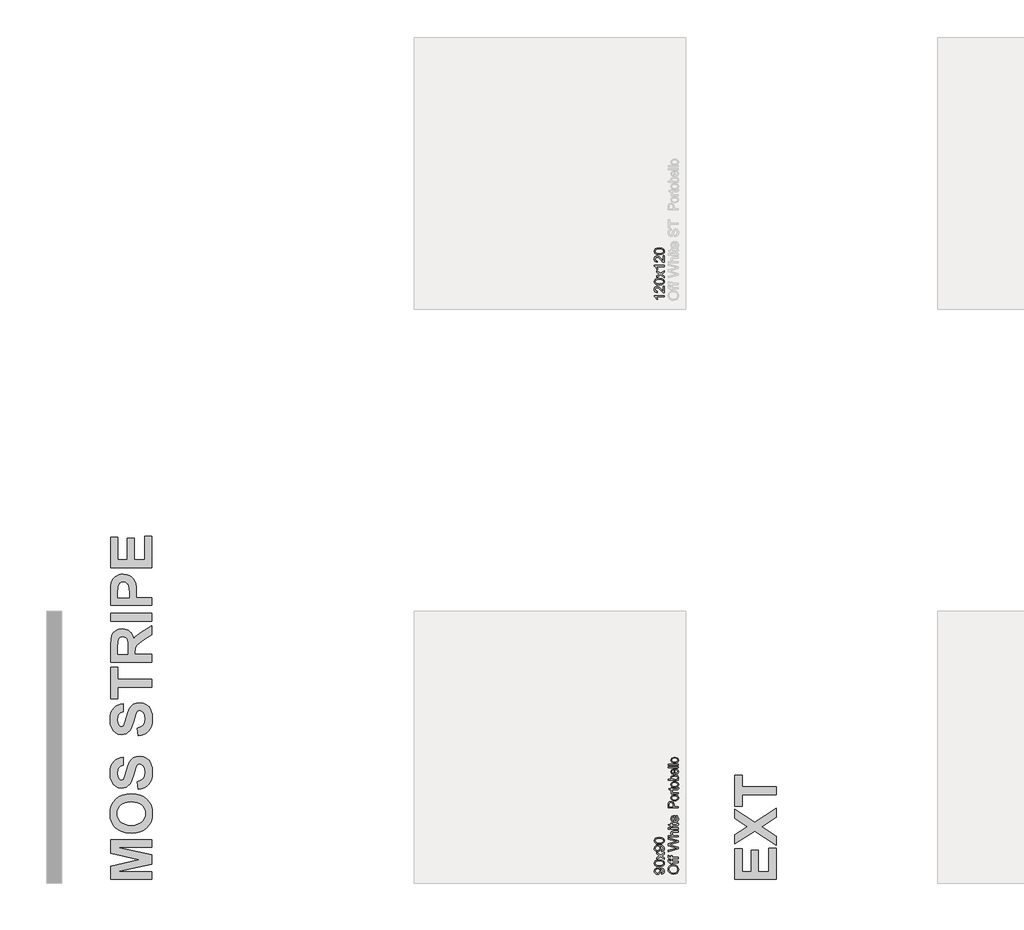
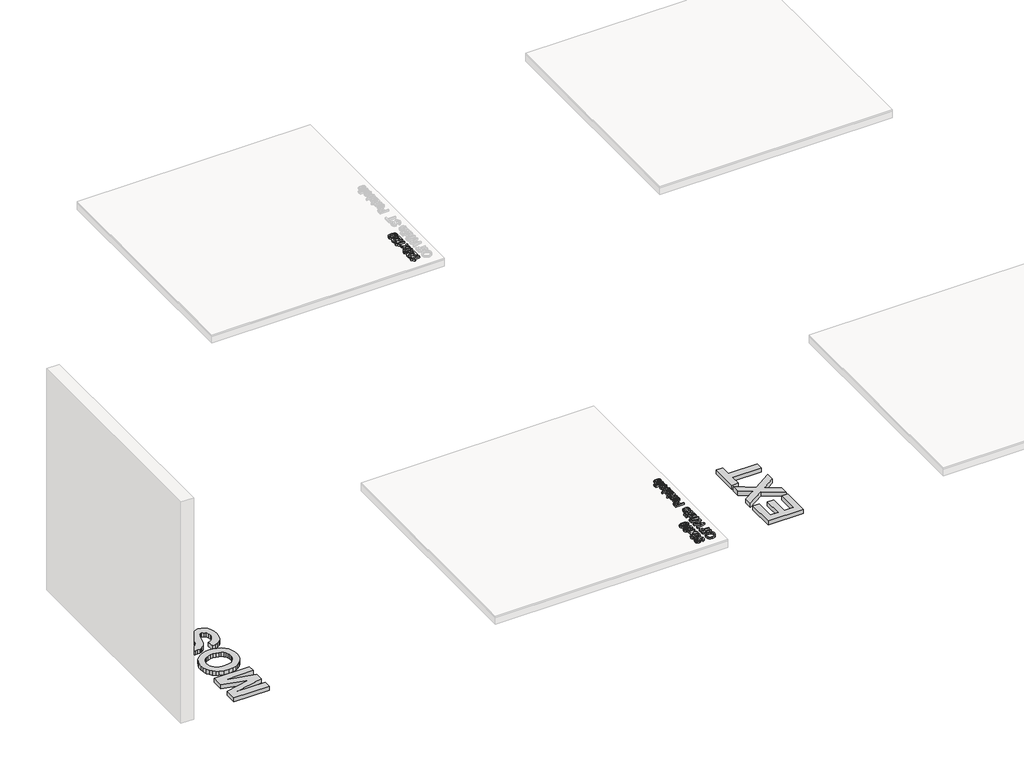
# One storey, part 5 of 19: 6 proxies.
"""IFC4 building model written with IfcOpenShell, lengths in millimetres."""

from ifc_helpers import new_model, si_unit, frame, origin, origin_with_axes, place, context, project, spatial, polyline, outline, extrude, element, save

model = new_model("IFC4")

# Units and contexts
model_context = context("Model", 3, world=origin())
ifc_project = project(units=[si_unit("LENGTHUNIT", "METRE", prefix="MILLI")], contexts=[model_context])

# Site, building, storey
site = spatial("IfcSite", under=ifc_project)
building = spatial("IfcBuilding", under=site)
storey = spatial("IfcBuildingStorey", under=building, Name="PORTOBELLO - SHOWROOM", Elevation=0.0)

# Proxies
placement = place(None, origin())
element("IfcBuildingElementProxy", 1, Name="10mm Arial", ObjectType="10mm Arial", at=placement, inside=storey, context=model_context, shape_type="SweptSolid", body=[
    extrude(outline(polyline([(6282.3367439, -7006.5341901), (6260.1228028, -7003.186464), (6243.316727, -6993.1432855), (6232.7401196, -6977.8087377), (6229.2145838, -6958.5869034), (6230.8700528, -6945.4105966), (6235.8364597, -6933.5954532), (6243.7643167, -6923.7852667), (6254.3041359, -6916.6238305), (6266.9470138, -6912.2460348), (6281.184047, -6910.7867695), (6295.6111526, -6912.3226769), (6308.4318401, -6916.9303988), (6318.9900534, -6924.3554838), (6326.6297361, -6934.34348), (6331.2650493, -6946.0574558), (6332.8101537, -6958.6604798), (6331.1025681, -6972.0391217), (6325.9798113, -6983.9217102), (6317.9048015, -6993.7073712), (6307.3404569, -7000.795231), (6282.3367439, -7006.5341901)]), holes=[polyline([(6282.4593712, -6993.9771514), (6298.1740638, -6991.4663568), (6310.1486227, -6983.9339729), (6317.7269918, -6972.6124045), (6320.2531149, -6958.7340562), (6317.7024664, -6944.6533729), (6310.0505209, -6933.3134104), (6297.7080799, -6925.8362088), (6281.0859451, -6923.3438083), (6260.3619261, -6927.6112394), (6246.6399276, -6940.0824391), (6241.7716226, -6958.513327), (6244.1168703, -6972.0207276), (6251.1526135, -6983.5047772), (6263.6697983, -6991.3590578), (6282.4593712, -6993.9771514)])]), frame((0.0, 0.0, 18.0), z_axis=(0.0, 0.0, 1.0), x_axis=(1.0, 0.0, 0.0)), (0.0, 0.0, 1.0), 20.0),
    extrude(outline(polyline([(6331.2405238, -6851.1408354), (6270.0249598, -6851.1408354), (6270.0249598, -6862.1282443), (6257.467921, -6862.1282443), (6257.467921, -6851.1408354), (6250.0367047, -6851.1408354), (6239.5643306, -6849.8164602), (6232.0840634, -6843.390788), (6229.2145838, -6830.7356474), (6230.5880099, -6819.2822546), (6242.3602338, -6821.1216646), (6241.7716226, -6828.3566771), (6243.8562872, -6836.26614), (6251.63086, -6838.5837966), (6257.467921, -6838.5837966), (6257.467921, -6824.457128), (6270.0249598, -6824.457128), (6270.0249598, -6838.5837966), (6331.2405238, -6838.5837966), (6331.2405238, -6851.1408354)])), frame((0.0, 0.0, 18.0), z_axis=(0.0, 0.0, 1.0), x_axis=(1.0, 0.0, 0.0)), (0.0, 0.0, 1.0), 20.0),
    extrude(outline(polyline([(6331.2405238, -6891.9512114), (6270.0249598, -6891.9512114), (6270.0249598, -6902.9386203), (6257.467921, -6902.9386203), (6257.467921, -6891.9512114), (6250.0367047, -6891.9512114), (6239.5643306, -6890.6268362), (6232.0840634, -6884.201164), (6229.2145838, -6871.5460234), (6230.5880099, -6860.0926306), (6242.3602338, -6861.9320406), (6241.7716226, -6869.1670531), (6243.8562872, -6877.076516), (6251.63086, -6879.3941726), (6257.467921, -6879.3941726), (6257.467921, -6865.267504), (6270.0249598, -6865.267504), (6270.0249598, -6879.3941726), (6331.2405238, -6879.3941726), (6331.2405238, -6891.9512114)])), frame((0.0, 0.0, 18.0), z_axis=(0.0, 0.0, 1.0), x_axis=(1.0, 0.0, 0.0)), (0.0, 0.0, 1.0), 20.0),
    extrude(outline(polyline([(6331.2405238, -6754.6821762), (6230.7842137, -6782.0771221), (6230.7842137, -6769.1276759), (6296.8067691, -6753.2351737), (6317.1874316, -6748.3300805), (6299.1612138, -6743.0816307), (6230.7842137, -6723.166952), (6230.7842137, -6704.5030721), (6280.3501811, -6690.033047), (6317.1874316, -6679.2663672), (6297.3953802, -6674.5084268), (6230.7842137, -6658.4932972), (6230.7842137, -6645.5193255), (6331.2405238, -6672.889746), (6331.2405238, -6686.3297015), (6253.7400502, -6710.438235), (6242.9243195, -6713.7982238), (6255.9473421, -6717.5751457), (6331.2405238, -6739.525438), (6331.2405238, -6754.6821762)])), frame((0.0, 0.0, 18.0), z_axis=(0.0, 0.0, 1.0), x_axis=(1.0, 0.0, 0.0)), (0.0, 0.0, 1.0), 20.0),
    extrude(outline(polyline([(6331.2405238, -6634.5319166), (6230.7842137, -6634.5319166), (6230.7842137, -6621.9748778), (6267.719566, -6621.9748778), (6258.8536099, -6612.1830854), (6255.8982912, -6600.1226873), (6259.12339, -6586.0205442), (6268.038397, -6577.4611564), (6284.5440359, -6574.8859825), (6331.2405238, -6574.8859825), (6331.2405238, -6587.4430212), (6285.8438856, -6587.4430212), (6272.6001338, -6591.4406722), (6268.45533, -6602.7714377), (6271.2512331, -6613.0598708), (6278.8296022, -6619.9270014), (6292.0488286, -6621.9748778), (6331.2405238, -6621.9748778), (6331.2405238, -6634.5319166)])), frame((0.0, 0.0, 18.0), z_axis=(0.0, 0.0, 1.0), x_axis=(1.0, 0.0, 0.0)), (0.0, 0.0, 1.0), 20.0),
    extrude(outline(polyline([(6243.3412524, -6557.6200542), (6230.7842137, -6557.6200542), (6230.7842137, -6545.0630154), (6243.3412524, -6545.0630154), (6243.3412524, -6557.6200542)])), frame((0.0, 0.0, 18.0), z_axis=(0.0, 0.0, 1.0), x_axis=(1.0, 0.0, 0.0)), (0.0, 0.0, 1.0), 20.0),
    extrude(outline(polyline([(6331.2405238, -6557.6200542), (6257.467921, -6557.6200542), (6257.467921, -6545.0630154), (6331.2405238, -6545.0630154), (6331.2405238, -6557.6200542)])), frame((0.0, 0.0, 18.0), z_axis=(0.0, 0.0, 1.0), x_axis=(1.0, 0.0, 0.0)), (0.0, 0.0, 1.0), 20.0),
    extrude(outline(polyline([(6320.7681497, -6499.5437499), (6331.6084058, -6497.97412), (6332.8101537, -6507.3673736), (6330.725489, -6517.8887987), (6325.25631, -6523.1372485), (6311.0070141, -6524.6578274), (6270.0249598, -6524.6578274), (6270.0249598, -6534.0756065), (6257.467921, -6534.0756065), (6257.467921, -6524.6578274), (6239.5398051, -6524.6578274), (6232.1576398, -6512.1007886), (6257.467921, -6512.1007886), (6257.467921, -6499.5437499), (6270.0249598, -6499.5437499), (6270.0249598, -6512.1007886), (6310.6391321, -6512.1007886), (6317.1138552, -6511.438601), (6319.4069863, -6509.2926227), (6320.2531149, -6505.0129288), (6320.7681497, -6499.5437499)])), frame((0.0, 0.0, 18.0), z_axis=(0.0, 0.0, 1.0), x_axis=(1.0, 0.0, 0.0)), (0.0, 0.0, 1.0), 20.0),
    extrude(outline(polyline([(6309.265706, -6435.336079), (6310.8353358, -6423.0242949), (6320.1120934, -6427.4603386), (6327.0466691, -6434.5390013), (6331.3692825, -6444.1008675), (6332.8101537, -6455.9865216), (6330.3238845, -6470.7201955), (6322.865077, -6482.0570923), (6310.9181093, -6489.2859736), (6294.9673591, -6491.6956006), (6278.4801143, -6489.2614481), (6266.1499361, -6481.9589905), (6258.4612024, -6470.7753778), (6255.8982912, -6456.6977601), (6258.4550711, -6443.0585352), (6266.1254107, -6432.1600311), (6278.4310634, -6425.0139233), (6294.8937827, -6422.6318874), (6298.278297, -6422.7054638), (6298.278297, -6479.1385619), (6307.677682, -6476.9649924), (6314.5877322, -6471.915812), (6318.8367692, -6464.6286828), (6320.2531149, -6455.741267), (6317.62889, -6443.4294829), (6309.265706, -6435.336079)]), holes=[polyline([(6285.7212583, -6479.1385619), (6285.7212583, -6435.1889262), (6274.3414419, -6440.2166468), (6269.9268579, -6447.5374985), (6268.45533, -6456.7468111), (6273.1519568, -6472.2101176), (6278.6425955, -6477.075357), (6285.7212583, -6479.1385619)])]), frame((0.0, 0.0, 18.0), z_axis=(0.0, 0.0, 1.0), x_axis=(1.0, 0.0, 0.0)), (0.0, 0.0, 1.0), 20.0),
])
element("IfcBuildingElementProxy", 2, Name="10mm Arial", ObjectType="10mm Arial", at=placement, inside=storey, context=model_context, shape_type="SweptSolid", body=[
    extrude(outline(polyline([(6166.1264463, -7004.9645603), (6164.5568164, -6992.4075215), (6176.5375067, -6986.7666643), (6180.2531149, -6976.0735609), (6177.8618819, -6965.9077551), (6171.4729979, -6959.0160991), (6160.5591654, -6954.9080835), (6145.9910384, -6953.093199), (6143.5384918, -6953.1667754), (6153.0543727, -6963.2099538), (6156.7086672, -6976.9810032), (6154.4768498, -6988.4313303), (6147.7813974, -6997.9625397), (6137.437782, -7004.3912775), (6124.2614752, -7006.5341901), (6110.6498414, -7004.2870443), (6099.9812635, -6997.5456067), (6093.0834761, -6987.4196548), (6090.7842137, -6975.0189659), (6096.0326635, -6957.1276382), (6110.9931979, -6944.8158541), (6139.0993824, -6940.6097366), (6169.5967998, -6944.8035913), (6179.5878616, -6950.0183186), (6186.8749908, -6957.274791), (6191.3263629, -6966.2603087), (6192.8101537, -6976.6621721), (6191.0596485, -6987.398195), (6185.808133, -6995.9637141), (6177.386701, -7001.9540593), (6166.1264463, -7004.9645603)]), holes=[polyline([(6123.9671696, -6953.1667754), (6115.4568328, -6954.5218074), (6108.9085333, -6958.5869034), (6104.7330726, -6964.8960797), (6103.3412524, -6972.9833522), (6104.8403716, -6981.3710617), (6109.3377289, -6988.0910394), (6116.2201879, -6992.5056234), (6124.8746119, -6993.9771514), (6132.6338563, -6992.5853312), (6138.792814, -6988.4098705), (6142.8119248, -6981.8554396), (6144.1516284, -6973.3267087), (6138.792814, -6958.8444208), (6132.4069957, -6954.5861867), (6123.9671696, -6953.1667754)])]), frame((0.0, 0.0, 18.0), z_axis=(0.0, 0.0, 1.0), x_axis=(1.0, 0.0, 0.0)), (0.0, 0.0, 1.0), 20.0),
    extrude(outline(polyline([(6141.8217091, -6929.6223277), (6112.918447, -6925.931245), (6096.2533926, -6914.9683615), (6090.7842137, -6896.6601009), (6094.0215752, -6881.993872), (6103.3535152, -6871.8648544), (6118.2159478, -6865.9787425), (6141.8217091, -6863.6978741), (6170.6023439, -6867.3521686), (6187.3041865, -6878.2782639), (6191.4336619, -6886.5096235), (6192.8101537, -6896.6601009), (6190.4189207, -6909.707649), (6183.2452218, -6919.6159374), (6166.255205, -6927.1207301), (6141.8217091, -6929.6223277)]), holes=[polyline([(6141.7971837, -6917.0652889), (6161.5493811, -6915.5937609), (6172.9813141, -6911.179177), (6178.4351647, -6904.606352), (6180.2531149, -6896.6601009), (6178.4290333, -6888.7138498), (6172.9567886, -6882.1410248), (6161.5187243, -6877.7264409), (6141.7971837, -6876.2549129), (6122.4895103, -6877.67739), (6110.9686725, -6881.9448211), (6105.2481074, -6888.5053834), (6103.3412524, -6896.8072537), (6105.0212469, -6904.6676657), (6110.0612302, -6910.9829733), (6122.2994379, -6915.54471), (6141.7971837, -6917.0652889)])]), frame((0.0, 0.0, 18.0), z_axis=(0.0, 0.0, 1.0), x_axis=(1.0, 0.0, 0.0)), (0.0, 0.0, 1.0), 20.0),
    extrude(outline(polyline([(6191.2405238, -6857.4193548), (6154.1334932, -6830.5884946), (6117.467921, -6855.8497249), (6117.467921, -6840.7910886), (6135.1507823, -6828.6019318), (6143.4649154, -6822.8874981), (6136.6468357, -6817.9333539), (6117.467921, -6804.05194), (6117.467921, -6788.9442527), (6154.1580187, -6815.4808073), (6191.2405238, -6789.9252714), (6191.2405238, -6805.0084332), (6168.9223494, -6820.410426), (6164.8265966, -6823.2063292), (6191.2405238, -6842.3116675), (6191.2405238, -6857.4193548)])), frame((0.0, 0.0, 18.0), z_axis=(0.0, 0.0, 1.0), x_axis=(1.0, 0.0, 0.0)), (0.0, 0.0, 1.0), 20.0),
    extrude(outline(polyline([(6166.1264463, -6780.5074923), (6164.5568164, -6767.9504535), (6176.5375067, -6762.3095963), (6180.2531149, -6751.6164929), (6177.8618819, -6741.4506871), (6171.4729979, -6734.5590311), (6160.5591654, -6730.4510155), (6145.9910384, -6728.636131), (6143.5384918, -6728.7097074), (6153.0543727, -6738.7528858), (6156.7086672, -6752.5239352), (6154.4768498, -6763.9742623), (6147.7813974, -6773.5054717), (6137.437782, -6779.9342095), (6124.2614752, -6782.0771221), (6110.6498414, -6779.8299763), (6099.9812635, -6773.0885387), (6093.0834761, -6762.9625868), (6090.7842137, -6750.5618979), (6096.0326635, -6732.6705702), (6110.9931979, -6720.3587861), (6139.0993824, -6716.1526686), (6169.5967998, -6720.3465234), (6179.5878616, -6725.5612506), (6186.8749908, -6732.817723), (6191.3263629, -6741.8032407), (6192.8101537, -6752.2051041), (6191.0596485, -6762.941127), (6185.808133, -6771.5066462), (6177.386701, -6777.4969913), (6166.1264463, -6780.5074923)]), holes=[polyline([(6123.9671696, -6728.7097074), (6115.4568328, -6730.0647394), (6108.9085333, -6734.1298354), (6104.7330726, -6740.4390117), (6103.3412524, -6748.5262842), (6104.8403716, -6756.9139937), (6109.3377289, -6763.6339715), (6116.2201879, -6768.0485554), (6124.8746119, -6769.5200834), (6132.6338563, -6768.1282632), (6138.792814, -6763.9528025), (6142.8119248, -6757.3983716), (6144.1516284, -6748.8696407), (6138.792814, -6734.3873528), (6132.4069957, -6730.1291187), (6123.9671696, -6728.7097074)])]), frame((0.0, 0.0, 18.0), z_axis=(0.0, 0.0, 1.0), x_axis=(1.0, 0.0, 0.0)), (0.0, 0.0, 1.0), 20.0),
    extrude(outline(polyline([(6141.8217091, -6705.1652597), (6112.918447, -6701.474177), (6096.2533926, -6690.5112935), (6090.7842137, -6672.2030329), (6094.0215752, -6657.536804), (6103.3535152, -6647.4077864), (6118.2159478, -6641.5216745), (6141.8217091, -6639.2408062), (6170.6023439, -6642.8951006), (6187.3041865, -6653.8211959), (6191.4336619, -6662.0525555), (6192.8101537, -6672.2030329), (6190.4189207, -6685.250581), (6183.2452218, -6695.1588694), (6166.255205, -6702.6636621), (6141.8217091, -6705.1652597)]), holes=[polyline([(6141.7971837, -6692.6082209), (6161.5493811, -6691.1366929), (6172.9813141, -6686.722109), (6178.4351647, -6680.149284), (6180.2531149, -6672.2030329), (6178.4290333, -6664.2567818), (6172.9567886, -6657.6839568), (6161.5187243, -6653.2693729), (6141.7971837, -6651.7978449), (6122.4895103, -6653.220322), (6110.9686725, -6657.4877531), (6105.2481074, -6664.0483154), (6103.3412524, -6672.3501857), (6105.0212469, -6680.2105977), (6110.0612302, -6686.5259053), (6122.2994379, -6691.087642), (6141.7971837, -6692.6082209)])]), frame((0.0, 0.0, 18.0), z_axis=(0.0, 0.0, 1.0), x_axis=(1.0, 0.0, 0.0)), (0.0, 0.0, 1.0), 20.0),
])
element("IfcBuildingElementProxy", 3, Name="10mm Arial", ObjectType="10mm Arial", at=placement, inside=storey, context=model_context, shape_type="SweptSolid", body=[
    extrude(outline(polyline([(6191.2405238, -1259.4452948), (6191.2405238, -1272.0023335), (6112.9552352, -1272.0023335), (6121.4287839, -1283.8971847), (6127.7686169, -1297.1164111), (6115.8982912, -1297.1164111), (6104.1505928, -1278.7100486), (6090.7842137, -1267.5386987), (6090.7842137, -1259.4452948), (6191.2405238, -1259.4452948)])), frame((0.0, 0.0, 17.0), z_axis=(0.0, 0.0, 1.0), x_axis=(1.0, 0.0, 0.0)), (0.0, 0.0, 1.0), 20.0),
    extrude(outline(polyline([(6178.683485, -1165.267504), (6191.2405238, -1165.267504), (6191.2405238, -1231.1919575), (6182.5830342, -1229.8430569), (6169.2534432, -1222.2033741), (6154.6975789, -1206.4702875), (6133.7773562, -1184.8020379), (6119.5525857, -1179.3941726), (6108.0378792, -1184.5077323), (6103.3412524, -1197.8618488), (6107.9275146, -1211.7800509), (6120.6071807, -1217.0652889), (6119.0375509, -1229.6223277), (6106.8913137, -1226.5781042), (6098.0192262, -1219.9960821), (6092.5929668, -1210.2196181), (6090.7842137, -1197.5920686), (6092.7953019, -1184.8725487), (6098.8285666, -1175.1144787), (6107.8416755, -1168.9064701), (6118.7922962, -1166.8371338), (6130.6994101, -1169.0689513), (6143.0111942, -1176.4879048), (6160.2158089, -1194.4773344), (6172.2946011, -1208.9228341), (6178.683485, -1214.5882168), (6178.683485, -1165.267504)])), frame((0.0, 0.0, 17.0), z_axis=(0.0, 0.0, 1.0), x_axis=(1.0, 0.0, 0.0)), (0.0, 0.0, 1.0), 20.0),
    extrude(outline(polyline([(6141.8217091, -1152.7104652), (6112.918447, -1149.0193825), (6096.2533926, -1138.0564991), (6090.7842137, -1119.7482385), (6094.0215752, -1105.0820096), (6103.3535152, -1094.952992), (6118.2159478, -1089.0668801), (6141.8217091, -1086.7860117), (6170.6023439, -1090.4403062), (6187.3041865, -1101.3664014), (6191.4336619, -1109.5977611), (6192.8101537, -1119.7482385), (6190.4189207, -1132.7957866), (6183.2452218, -1142.704075), (6166.255205, -1150.2088677), (6141.8217091, -1152.7104652)]), holes=[polyline([(6141.7971837, -1140.1534265), (6161.5493811, -1138.6818985), (6172.9813141, -1134.2673145), (6178.4351647, -1127.6944896), (6180.2531149, -1119.7482385), (6178.4290333, -1111.8019874), (6172.9567886, -1105.2291624), (6161.5187243, -1100.8145784), (6141.7971837, -1099.3430505), (6122.4895103, -1100.7655275), (6110.9686725, -1105.0329586), (6105.2481074, -1111.5935209), (6103.3412524, -1119.8953913), (6105.0212469, -1127.7558032), (6110.0612302, -1134.0711108), (6122.2994379, -1138.6328475), (6141.7971837, -1140.1534265)])]), frame((0.0, 0.0, 17.0), z_axis=(0.0, 0.0, 1.0), x_axis=(1.0, 0.0, 0.0)), (0.0, 0.0, 1.0), 20.0),
    extrude(outline(polyline([(6191.2405238, -1080.5074923), (6154.1334932, -1053.6766321), (6117.467921, -1078.9378625), (6117.467921, -1063.8792261), (6135.1507823, -1051.6900693), (6143.4649154, -1045.9756357), (6136.6468357, -1041.0214915), (6117.467921, -1027.1400775), (6117.467921, -1012.0323903), (6154.1580187, -1038.5689449), (6191.2405238, -1013.0134089), (6191.2405238, -1028.0965707), (6168.9223494, -1043.4985636), (6164.8265966, -1046.2944668), (6191.2405238, -1065.399805), (6191.2405238, -1080.5074923)])), frame((0.0, 0.0, 17.0), z_axis=(0.0, 0.0, 1.0), x_axis=(1.0, 0.0, 0.0)), (0.0, 0.0, 1.0), 20.0),
    extrude(outline(polyline([(6191.2405238, -958.0763643), (6191.2405238, -970.6334031), (6112.9552352, -970.6334031), (6121.4287839, -982.5282543), (6127.7686169, -995.7474806), (6115.8982912, -995.7474806), (6104.1505928, -977.3411181), (6090.7842137, -966.1697682), (6090.7842137, -958.0763643), (6191.2405238, -958.0763643)])), frame((0.0, 0.0, 17.0), z_axis=(0.0, 0.0, 1.0), x_axis=(1.0, 0.0, 0.0)), (0.0, 0.0, 1.0), 20.0),
    extrude(outline(polyline([(6178.683485, -863.8985735), (6191.2405238, -863.8985735), (6191.2405238, -929.8230271), (6182.5830342, -928.4741264), (6169.2534432, -920.8344437), (6154.6975789, -905.101357), (6133.7773562, -883.4331075), (6119.5525857, -878.0252422), (6108.0378792, -883.1388019), (6103.3412524, -896.4929183), (6107.9275146, -910.4111205), (6120.6071807, -915.6963585), (6119.0375509, -928.2533972), (6106.8913137, -925.2091737), (6098.0192262, -918.6271517), (6092.5929668, -908.8506877), (6090.7842137, -896.2231382), (6092.7953019, -883.5036182), (6098.8285666, -873.7455483), (6107.8416755, -867.5375396), (6118.7922962, -865.4682034), (6130.6994101, -867.7000208), (6143.0111942, -875.1189744), (6160.2158089, -893.108404), (6172.2946011, -907.5539036), (6178.683485, -913.2192864), (6178.683485, -863.8985735)])), frame((0.0, 0.0, 17.0), z_axis=(0.0, 0.0, 1.0), x_axis=(1.0, 0.0, 0.0)), (0.0, 0.0, 1.0), 20.0),
    extrude(outline(polyline([(6141.8217091, -851.3415348), (6112.918447, -847.6504521), (6096.2533926, -836.6875686), (6090.7842137, -818.379308), (6094.0215752, -803.7130791), (6103.3535152, -793.5840615), (6118.2159478, -787.6979496), (6141.8217091, -785.4170812), (6170.6023439, -789.0713757), (6187.3041865, -799.997471), (6191.4336619, -808.2288306), (6192.8101537, -818.379308), (6190.4189207, -831.4268561), (6183.2452218, -841.3351445), (6166.255205, -848.8399372), (6141.8217091, -851.3415348)]), holes=[polyline([(6141.7971837, -838.784496), (6161.5493811, -837.312968), (6172.9813141, -832.8983841), (6178.4351647, -826.3255591), (6180.2531149, -818.379308), (6178.4290333, -810.4330569), (6172.9567886, -803.8602319), (6161.5187243, -799.445648), (6141.7971837, -797.97412), (6122.4895103, -799.3965971), (6110.9686725, -803.6640282), (6105.2481074, -810.2245904), (6103.3412524, -818.5264608), (6105.0212469, -826.3868728), (6110.0612302, -832.7021804), (6122.2994379, -837.2639171), (6141.7971837, -838.784496)])]), frame((0.0, 0.0, 17.0), z_axis=(0.0, 0.0, 1.0), x_axis=(1.0, 0.0, 0.0)), (0.0, 0.0, 1.0), 20.0),
])
element("IfcBuildingElementProxy", 4, Name="10mm Arial Narrow", ObjectType="10mm Arial Narrow", at=placement, inside=storey, context=model_context, shape_type="SweptSolid", body=[
    extrude(outline(polyline([(6331.2405238, -6347.1065049), (6230.5219201, -6347.1065049), (6230.5219201, -6315.8096202), (6232.4002408, -6299.5139187), (6241.880684, -6288.0409326), (6258.8997928, -6283.7512541), (6270.9756183, -6285.5375625), (6280.6020121, -6290.8964877), (6286.9032705, -6300.6402765), (6289.00369, -6315.5811758), (6289.00369, -6337.3595432), (6331.2405238, -6337.3595432), (6331.2405238, -6347.1065049)]), holes=[polyline([(6277.6322347, -6337.3595432), (6277.6322347, -6314.3881883), (6273.1014205, -6298.5239929), (6259.4328297, -6293.4982158), (6249.2670533, -6295.9730303), (6243.4671035, -6301.9506591), (6241.8933753, -6314.6166327), (6241.8933753, -6337.3595432), (6277.6322347, -6337.3595432)])]), frame((0.0, 0.0, 18.0), z_axis=(0.0, 0.0, 1.0), x_axis=(1.0, 0.0, 0.0)), (0.0, 0.0, 1.0), 20.0),
    extrude(outline(polyline([(6294.6894176, -6275.6287861), (6278.0986421, -6273.6743172), (6266.1465572, -6267.8109106), (6258.9220027, -6258.9523439), (6256.5138178, -6248.0123947), (6258.9220027, -6237.1993591), (6266.1465572, -6228.3154097), (6277.9082717, -6222.375855), (6293.9279362, -6220.3960034), (6311.0898228, -6222.3409537), (6323.232278, -6228.1758048), (6330.4568326, -6237.024853), (6332.8650174, -6248.0123947), (6330.4504869, -6258.8730229), (6323.2068953, -6267.7474538), (6311.2484648, -6273.658453), (6294.6894176, -6275.6287861)]), holes=[polyline([(6294.6640349, -6265.8818244), (6307.2157863, -6264.5777876), (6316.0870444, -6260.665677), (6321.3603029, -6254.8244802), (6323.1180558, -6247.7331849), (6321.3444387, -6241.0131117), (6316.0235876, -6235.3210384), (6307.1364653, -6231.4374834), (6294.6640349, -6230.142965), (6282.1503576, -6231.4470019), (6273.2917908, -6235.3591125), (6268.0185323, -6241.2003092), (6266.2607794, -6248.2916046), (6268.0280508, -6255.0592703), (6273.3298649, -6260.7418251), (6282.1979501, -6264.5968246), (6294.6640349, -6265.8818244)])]), frame((0.0, 0.0, 18.0), z_axis=(0.0, 0.0, 1.0), x_axis=(1.0, 0.0, 0.0)), (0.0, 0.0, 1.0), 20.0),
    extrude(outline(polyline([(6323.1180558, -6148.9182846), (6332.8650174, -6147.293791), (6332.8650174, -6154.6547776), (6330.7455609, -6162.929542), (6324.9456111, -6167.2446031), (6310.2997859, -6168.4122079), (6267.8852731, -6168.4122079), (6267.8852731, -6176.5346759), (6264.6362858, -6176.5346759), (6269.5097667, -6178.1591695), (6267.8852731, -6185.7232179), (6270.2077913, -6191.8023776), (6276.6930743, -6195.6732413), (6292.1003809, -6197.6530929), (6331.2405238, -6197.6530929), (6331.2405238, -6207.4000545), (6258.1383114, -6207.4000545), (6258.1383114, -6197.6530929), (6267.8345076, -6197.6530929), (6258.7474965, -6191.4089455), (6256.5138178, -6185.012502), (6258.1383114, -6176.5346759), (6258.1383114, -6168.4122079), (6241.8933753, -6168.4122079), (6233.7709073, -6158.6652462), (6258.1383114, -6158.6652462), (6258.1383114, -6148.9182846), (6267.8852731, -6148.9182846), (6267.8852731, -6158.6652462), (6312.5334646, -6158.6652462), (6320.5290191, -6157.802234), (6323.1180558, -6153.1825803), (6323.1180558, -6148.9182846)])), frame((0.0, 0.0, 18.0), z_axis=(0.0, 0.0, 1.0), x_axis=(1.0, 0.0, 0.0)), (0.0, 0.0, 1.0), 20.0),
    extrude(outline(polyline([(6294.6894176, -6142.4203101), (6278.0986421, -6140.4658413), (6266.1465572, -6134.6024347), (6258.9220027, -6125.7438679), (6256.5138178, -6114.8039188), (6258.9220027, -6103.9908832), (6266.1465572, -6095.1069338), (6277.9082717, -6089.167379), (6293.9279362, -6087.1875274), (6311.0898228, -6089.1324778), (6323.232278, -6094.9673289), (6330.4568326, -6103.8163771), (6332.8650174, -6114.8039188), (6330.4504869, -6125.664547), (6323.2068953, -6134.5389779), (6311.2484648, -6140.4499771), (6294.6894176, -6142.4203101)]), holes=[polyline([(6294.6640349, -6132.6733485), (6307.2157863, -6131.3693116), (6316.0870444, -6127.457201), (6321.3603029, -6121.6160043), (6323.1180558, -6114.524709), (6321.3444387, -6107.8046358), (6316.0235876, -6102.1125625), (6307.1364653, -6098.2290074), (6294.6640349, -6096.9344891), (6282.1503576, -6098.238526), (6273.2917908, -6102.1506365), (6268.0185323, -6107.9918333), (6266.2607794, -6115.0831286), (6268.0280508, -6121.8507944), (6273.3298649, -6127.5333492), (6282.1979501, -6131.3883487), (6294.6640349, -6132.6733485)])]), frame((0.0, 0.0, 18.0), z_axis=(0.0, 0.0, 1.0), x_axis=(1.0, 0.0, 0.0)), (0.0, 0.0, 1.0), 20.0),
    extrude(outline(polyline([(6331.2405238, -6064.4446169), (6331.2405238, -6074.1915786), (6230.5219201, -6074.1915786), (6230.5219201, -6064.4446169), (6265.9308042, -6064.4446169), (6258.8490274, -6057.0455562), (6256.5138178, -6047.8443229), (6260.7146567, -6034.9625962), (6273.4440871, -6025.6852147), (6294.1309979, -6022.2077831), (6310.5853414, -6024.1400421), (6322.7880805, -6029.9368191), (6330.3457832, -6038.3099414), (6332.8650174, -6047.9712364), (6330.250598, -6057.3120747), (6322.4834879, -6064.4446169), (6331.2405238, -6064.4446169)]), holes=[polyline([(6294.1309979, -6064.4446169), (6311.3785512, -6062.3632345), (6320.1102043, -6056.4744452), (6323.1180558, -6048.0220018), (6321.3285745, -6042.0792742), (6315.9601308, -6036.8409169), (6294.5371213, -6031.9547447), (6273.1014205, -6036.6632379), (6267.9709397, -6041.9079409), (6266.2607794, -6048.2250635), (6268.0502607, -6054.2026924), (6273.4187044, -6059.494988), (6294.1309979, -6064.4446169)])]), frame((0.0, 0.0, 18.0), z_axis=(0.0, 0.0, 1.0), x_axis=(1.0, 0.0, 0.0)), (0.0, 0.0, 1.0), 20.0),
    extrude(outline(polyline([(6308.4976133, -5970.2239876), (6310.1221069, -5960.477026), (6320.0086735, -5964.1765563), (6327.1285244, -5969.9955432), (6331.4308941, -5977.6991965), (6332.8650174, -5987.0527261), (6330.4504869, -5998.6462801), (6323.2068953, -6007.7904023), (6311.400761, -6013.7299571), (6295.2986027, -6015.7098087), (6278.631679, -6013.7204386), (6266.4511498, -6007.7523282), (6258.9981508, -5998.7382924), (6256.5138178, -5987.6111458), (6258.9124841, -5976.9281966), (6266.1084832, -5968.1806792), (6277.8479878, -5962.3458282), (6293.8771708, -5960.4008778), (6297.126158, -5960.477026), (6297.126158, -6005.962847), (6316.5693159, -5999.9598355), (6321.4808708, -5994.0297992), (6323.1180558, -5986.9258125), (6319.4629451, -5976.7473448), (6308.4976133, -5970.2239876)]), holes=[polyline([(6287.3791964, -6005.3028965), (6287.3791964, -5970.2239876), (6273.1141119, -5974.4882833), (6267.9741126, -5980.3136159), (6266.2607794, -5987.5349976), (6271.9718898, -5999.7440824), (6287.3791964, -6005.3028965)])]), frame((0.0, 0.0, 18.0), z_axis=(0.0, 0.0, 1.0), x_axis=(1.0, 0.0, 0.0)), (0.0, 0.0, 1.0), 20.0),
    extrude(outline(polyline([(6331.2405238, -5947.4810771), (6230.5219201, -5947.4810771), (6230.5219201, -5937.7341154), (6331.2405238, -5937.7341154), (6331.2405238, -5947.4810771)])), frame((0.0, 0.0, 18.0), z_axis=(0.0, 0.0, 1.0), x_axis=(1.0, 0.0, 0.0)), (0.0, 0.0, 1.0), 20.0),
    extrude(outline(polyline([(6331.2405238, -5921.4891793), (6230.5219201, -5921.4891793), (6230.5219201, -5911.7422177), (6331.2405238, -5911.7422177), (6331.2405238, -5921.4891793)])), frame((0.0, 0.0, 18.0), z_axis=(0.0, 0.0, 1.0), x_axis=(1.0, 0.0, 0.0)), (0.0, 0.0, 1.0), 20.0),
    extrude(outline(polyline([(6294.6894176, -5900.3707624), (6278.0986421, -5898.4162935), (6266.1465572, -5892.5528869), (6258.9220027, -5883.6943202), (6256.5138178, -5872.7543711), (6258.9220027, -5861.9413355), (6266.1465572, -5853.0573861), (6277.9082717, -5847.1178313), (6293.9279362, -5845.1379797), (6311.0898228, -5847.0829301), (6323.232278, -5852.9177811), (6330.4568326, -5861.7668293), (6332.8650174, -5872.7543711), (6330.4504869, -5883.6149992), (6323.2068953, -5892.4894301), (6311.2484648, -5898.4004294), (6294.6894176, -5900.3707624)]), holes=[polyline([(6294.6640349, -5890.6238008), (6307.2157863, -5889.3197639), (6316.0870444, -5885.4076533), (6321.3603029, -5879.5664566), (6323.1180558, -5872.4751612), (6321.3444387, -5865.7550881), (6316.0235876, -5860.0630147), (6307.1364653, -5856.1794597), (6294.6640349, -5854.8849414), (6282.1503576, -5856.1889782), (6273.2917908, -5860.1010888), (6268.0185323, -5865.9422856), (6266.2607794, -5873.0335809), (6268.0280508, -5879.8012467), (6273.3298649, -5885.4838015), (6282.1979501, -5889.3388009), (6294.6640349, -5890.6238008)])]), frame((0.0, 0.0, 18.0), z_axis=(0.0, 0.0, 1.0), x_axis=(1.0, 0.0, 0.0)), (0.0, 0.0, 1.0), 20.0),
])
element("IfcBuildingElementProxy", 5, Name="400mm Arial", ObjectType="400mm Arial", at=placement, inside=storey, context=model_context, shape_type="SweptSolid", body=[
    extrude(outline(polyline([(7301.4509814, -7057.4361951), (6893.3472214, -7057.4361951), (6893.3472214, -6752.9778345), (6964.6034334, -6752.9778345), (6964.6034334, -6979.7021456), (7055.2931579, -6979.7021456), (7055.2931579, -6765.9335094), (7126.5493699, -6765.9335094), (7126.5493699, -6979.7021456), (7230.1947693, -6979.7021456), (7230.1947693, -6746.499997), (7301.4509814, -6746.499997), (7301.4509814, -7057.4361951)])), origin_with_axes(), (0.0, 0.0, 1.0), 50.0),
    extrude(outline(polyline([(7301.4509814, -6717.3497285), (7087.3786966, -6578.1774393), (6893.3472214, -6704.3940535), (6893.3472214, -6613.5018967), (7017.5395114, -6532.7313609), (6893.3472214, -6452.0620412), (6893.3472214, -6361.0686682), (7087.4799128, -6487.2852824), (7301.4509814, -6348.1129932), (7301.4509814, -6439.0051501), (7157.4203141, -6532.7313609), (7301.4509814, -6626.3563554), (7301.4509814, -6717.3497285)])), origin_with_axes(), (0.0, 0.0, 1.0), 50.0),
    extrude(outline(polyline([(7301.4509814, -6215.3173253), (6964.6034334, -6215.3173253), (6964.6034334, -6331.9183996), (6893.3472214, -6331.9183996), (6893.3472214, -6020.9822015), (6964.6034334, -6020.9822015), (6964.6034334, -6137.5832758), (7301.4509814, -6137.5832758), (7301.4509814, -6215.3173253)])), origin_with_axes(), (0.0, 0.0, 1.0), 50.0),
])
element("IfcBuildingElementProxy", 6, Name="400mm Arial", ObjectType="400mm Arial", at=placement, inside=storey, context=model_context, shape_type="SweptSolid", body=[
    extrude(outline(polyline([(1101.4492369, -7057.4361951), (693.3454769, -7057.4361951), (693.3454769, -6924.4380948), (971.6900553, -6859.8621526), (693.3454769, -6795.4886428), (693.3454769, -6662.2881101), (1101.4492369, -6662.2881101), (1101.4492369, -6740.0221596), (780.1889853, -6743.2610783), (1101.4492369, -6814.314858), (1101.4492369, -6905.2070148), (780.1889853, -6976.4632269), (1101.4492369, -6979.7021456), (1101.4492369, -7057.4361951)])), origin_with_axes(), (0.0, 0.0, 1.0), 50.0),
    extrude(outline(polyline([(899.9277621, -6597.5097355), (842.6899952, -6592.9297019), (795.4726331, -6579.1896014), (765.9807598, -6563.0329638), (739.6518931, -6541.8914279), (718.1054923, -6517.1314124), (702.9610169, -6490.1193363), (690.8909838, -6449.7846765), (686.8676394, -6403.6806927), (690.3564357, -6361.6127053), (700.8228244, -6323.9729271), (718.2668057, -6290.7613581), (742.6883794, -6261.9779983), (773.3220981, -6238.7299), (809.402514, -6222.1241155), (850.9296273, -6212.1606448), (897.9034379, -6208.8394879), (944.5577849, -6212.1353407), (985.8350206, -6222.0228992), (1021.7351452, -6238.5021635), (1052.2581587, -6261.5731334), (1076.6133093, -6290.1667128), (1094.0098454, -6323.2138055), (1104.4477671, -6360.7144114), (1107.9270743, -6402.6685306), (1104.4635821, -6445.0654707), (1094.0731056, -6482.8823773), (1076.7556446, -6516.1192503), (1052.5111992, -6544.7760899), (1022.1937812, -6567.8470598), (986.6574024, -6584.3263241), (945.9020627, -6594.2138826), (899.9277621, -6597.5097355)]), holes=[polyline([(897.0937083, -6519.7756859), (929.3753533, -6517.7102426), (957.4944818, -6511.5139128), (981.4510935, -6501.1866963), (1001.2451887, -6486.7285933), (1016.7439209, -6469.0885056), (1027.8144439, -6449.2153353), (1034.4567577, -6427.1090824), (1036.6708623, -6402.7697468), (1034.4725727, -6378.4557153), (1027.877704, -6356.4253745), (1016.8862562, -6336.6787245), (1001.4982292, -6319.2157652), (981.7136231, -6304.9347905), (957.5324378, -6294.7340943), (928.9546735, -6288.6136766), (895.9803299, -6286.5735374), (863.4646224, -6288.5599055), (835.35182, -6294.5190099), (811.6419227, -6304.4508505), (792.3349306, -6318.3554274), (777.3675835, -6335.5495311), (766.6766213, -6355.3499523), (760.2620439, -6377.7566908), (758.1238515, -6402.7697468), (760.287348, -6427.8081068), (766.7778375, -6450.2907576), (777.59532, -6470.217699), (792.7397954, -6487.5889311), (812.2428939, -6501.6706363), (836.1362456, -6511.7289972), (864.4198504, -6517.7640138), (897.0937083, -6519.7756859)])]), origin_with_axes(), (0.0, 0.0, 1.0), 50.0),
    extrude(outline(polyline([(965.4146502, -6163.4946256), (958.9368128, -6085.7605761), (993.704581, -6074.4243606), (1017.8446472, -6055.395713), (1031.9643085, -6028.5481132), (1036.6708623, -5993.7550409), (1032.5083456, -5957.6461579), (1020.0207957, -5931.709504), (1001.9663542, -5916.0715995), (981.1031628, -5910.8589647), (967.8817953, -5913.0224612), (956.7606642, -5919.5129507), (947.3602087, -5931.4185074), (939.300868, -5949.8272057), (921.992896, -6017.2372017), (904.1029308, -6074.7786173), (893.6586831, -6095.9960654), (882.2149253, -6112.178007), (864.4957625, -6128.9609199), (844.9420559, -6140.9487148), (823.5538054, -6148.1413917), (800.3310112, -6150.5389507), (770.2697967, -6146.1360456), (742.2329065, -6132.9273301), (718.421793, -6111.4188854), (701.0379089, -6082.1167925), (690.4102068, -6045.5018285), (686.8676394, -6002.0547702), (689.075418, -5966.1135265), (695.6987538, -5934.9104667), (706.7376467, -5908.4455907), (722.1920968, -5886.7188985), (741.3282866, -5869.6608041), (763.4123985, -5857.2017212), (788.4444325, -5849.3416499), (816.4243886, -5846.0805901), (816.4243886, -5923.8146396), (789.7159611, -5932.4053655), (771.7374318, -5947.2461923), (761.5272466, -5969.703539), (758.1238515, -6001.1438243), (761.742331, -6034.2415251), (772.5977696, -6059.241929), (783.4785122, -6069.4141582), (797.4969573, -6072.8049012), (810.7309768, -6069.7178068), (821.890064, -6060.4565235), (834.9596071, -6033.5709677), (848.4593192, -5984.2913253), (862.5030684, -5931.696852), (877.2047229, -5894.8668035), (895.0061239, -5869.0566698), (918.3491124, -5849.5219412), (947.524685, -5837.2241717), (982.8238384, -5833.1249152), (1016.5288364, -5837.9706412), (1048.0070778, -5852.5078194), (1074.4751168, -5875.9140681), (1093.1495076, -5907.3670054), (1104.2326827, -5947.2082362), (1107.9270743, -5995.7793651), (1105.6528726, -6032.1033326), (1098.8302674, -6063.9484828), (1087.4592588, -6091.3148157), (1071.5398467, -6114.2023312), (1051.2618116, -6132.7691798), (1026.8149338, -6147.1735117), (998.1992133, -6157.415327), (965.4146502, -6163.4946256)])), origin_with_axes(), (0.0, 0.0, 1.0), 50.0),
    extrude(outline(polyline([(965.4146502, -5632.3119539), (958.9368128, -5554.5779044), (993.704581, -5543.2416888), (1017.8446472, -5524.2130413), (1031.9643085, -5497.3654415), (1036.6708623, -5462.5723692), (1032.5083456, -5426.4634862), (1020.0207957, -5400.5268323), (1001.9663542, -5384.8889278), (981.1031628, -5379.676293), (967.8817953, -5381.8397895), (956.7606642, -5388.330279), (947.3602087, -5400.2358357), (939.300868, -5418.6445339), (921.992896, -5486.05453), (904.1029308, -5543.5959456), (893.6586831, -5564.8133937), (882.2149253, -5580.9953353), (864.4957625, -5597.7782482), (844.9420559, -5609.7660431), (823.5538054, -5616.95872), (800.3310112, -5619.356279), (770.2697967, -5614.9533738), (742.2329065, -5601.7446584), (718.421793, -5580.2362137), (701.0379089, -5550.9341208), (690.4102068, -5514.3191567), (686.8676394, -5470.8720985), (689.075418, -5434.9308548), (695.6987538, -5403.7277949), (706.7376467, -5377.262919), (722.1920968, -5355.5362268), (741.3282866, -5338.4781324), (763.4123985, -5326.0190495), (788.4444325, -5318.1589781), (816.4243886, -5314.8979184), (816.4243886, -5392.6319679), (789.7159611, -5401.2226937), (771.7374318, -5416.0635206), (761.5272466, -5438.5208672), (758.1238515, -5469.9611526), (761.742331, -5503.0588533), (772.5977696, -5528.0592573), (783.4785122, -5538.2314864), (797.4969573, -5541.6222295), (810.7309768, -5538.5351351), (821.890064, -5529.2738518), (834.9596071, -5502.3882959), (848.4593192, -5453.1086536), (862.5030684, -5400.5141803), (877.2047229, -5363.6841317), (895.0061239, -5337.8739981), (918.3491124, -5318.3392695), (947.524685, -5306.0415), (982.8238384, -5301.9422435), (1016.5288364, -5306.7879695), (1048.0070778, -5321.3251477), (1074.4751168, -5344.7313964), (1093.1495076, -5376.1843337), (1104.2326827, -5416.0255645), (1107.9270743, -5464.5966934), (1105.6528726, -5500.9206609), (1098.8302674, -5532.7658111), (1087.4592588, -5560.1321439), (1071.5398467, -5583.0196595), (1051.2618116, -5601.5865081), (1026.8149338, -5615.99084), (998.1992133, -5626.2326553), (965.4146502, -5632.3119539)])), origin_with_axes(), (0.0, 0.0, 1.0), 50.0),
    extrude(outline(polyline([(1101.4492369, -5146.4741444), (764.601689, -5146.4741444), (764.601689, -5263.0752187), (693.3454769, -5263.0752187), (693.3454769, -4952.1390206), (764.601689, -4952.1390206), (764.601689, -5068.7400949), (1101.4492369, -5068.7400949), (1101.4492369, -5146.4741444)])), origin_with_axes(), (0.0, 0.0, 1.0), 50.0),
    extrude(outline(polyline([(1101.4492369, -4900.3163209), (693.3454769, -4900.3163209), (693.3454769, -4728.6536282), (696.1036186, -4672.731672), (704.3780438, -4634.5225526), (719.7122997, -4608.1051218), (743.6499334, -4587.5582311), (773.9388844, -4574.3495156), (808.3270918, -4569.9466105), (830.3985517, -4571.5376028), (850.4583394, -4576.3105797), (868.5064549, -4584.2655412), (884.5428982, -4595.4024874), (898.1817825, -4609.7087661), (909.0372211, -4627.1717254), (917.1092138, -4647.7913652), (922.3977608, -4671.5676856), (938.6429626, -4649.0217748), (956.4064075, -4630.7775529), (982.140629, -4611.9007296), (1022.2981604, -4587.4570148), (1101.4492369, -4537.5574232), (1101.4492369, -4628.3483638), (1008.2291072, -4687.4586306), (952.9144482, -4733.8662631), (943.3115603, -4746.7460258), (937.2765437, -4760.3849102), (933.0254629, -4804.7682184), (933.0254629, -4822.5822714), (1101.4492369, -4822.5822714), (1101.4492369, -4900.3163209)]), holes=[polyline([(861.7692509, -4822.5822714), (861.7692509, -4758.5124103), (860.5926124, -4707.9422612), (857.0626971, -4680.7277527), (850.6607718, -4666.8864359), (840.8681034, -4656.4358622), (827.9503846, -4649.8694605), (812.1733078, -4647.68066), (794.7008595, -4650.565322), (780.9481069, -4659.219308), (771.2440028, -4673.1365369), (765.9174997, -4691.8109277), (764.601689, -4754.9698429), (764.601689, -4822.5822714), (861.7692509, -4822.5822714)])]), origin_with_axes(), (0.0, 0.0, 1.0), 50.0),
    extrude(outline(polyline([(1101.4492369, -4492.2125609), (693.3454769, -4492.2125609), (693.3454769, -4414.4785114), (1101.4492369, -4414.4785114), (1101.4492369, -4492.2125609)])), origin_with_axes(), (0.0, 0.0, 1.0), 50.0),
    extrude(outline(polyline([(1101.4492369, -4336.7444619), (693.3454769, -4336.7444619), (693.3454769, -4205.2646047), (694.86372, -4143.4974124), (699.4184495, -4107.7933942), (713.9050196, -4075.7205075), (739.1458121, -4049.3410327), (755.5649792, -4039.0454463), (774.2045769, -4031.691456), (795.0646053, -4027.2790619), (818.1450642, -4025.8082638), (852.5206196, -4029.262267), (880.9497227, -4039.6242765), (903.6727619, -4055.3127891), (920.9301258, -4074.7463015), (933.0128109, -4096.2167901), (940.2118138, -4118.0162314), (944.5388068, -4154.5805874), (945.9811378, -4204.5560912), (945.9811378, -4259.0104124), (1101.4492369, -4259.0104124), (1101.4492369, -4336.7444619)]), holes=[polyline([(764.601689, -4259.0104124), (874.7249258, -4259.0104124), (874.7249258, -4210.7302801), (873.2066826, -4167.2452657), (868.6519532, -4141.0429193), (860.8456529, -4125.3797107), (849.5726975, -4113.5121101), (835.5162963, -4106.0347625), (819.3596587, -4103.5423133), (800.0526666, -4107.0469246), (784.4400662, -4117.5607585), (773.2556749, -4133.4137474), (767.2333104, -4152.935824), (764.601689, -4216.3983878), (764.601689, -4259.0104124)])]), origin_with_axes(), (0.0, 0.0, 1.0), 50.0),
    extrude(outline(polyline([(1101.4492369, -3961.0298892), (693.3454769, -3961.0298892), (693.3454769, -3656.5715286), (764.601689, -3656.5715286), (764.601689, -3883.2958397), (855.2914134, -3883.2958397), (855.2914134, -3669.5272035), (926.5476255, -3669.5272035), (926.5476255, -3883.2958397), (1030.1930248, -3883.2958397), (1030.1930248, -3650.0936911), (1101.4492369, -3650.0936911), (1101.4492369, -3961.0298892)])), origin_with_axes(), (0.0, 0.0, 1.0), 50.0),
])

save(model, "model.ifc")
